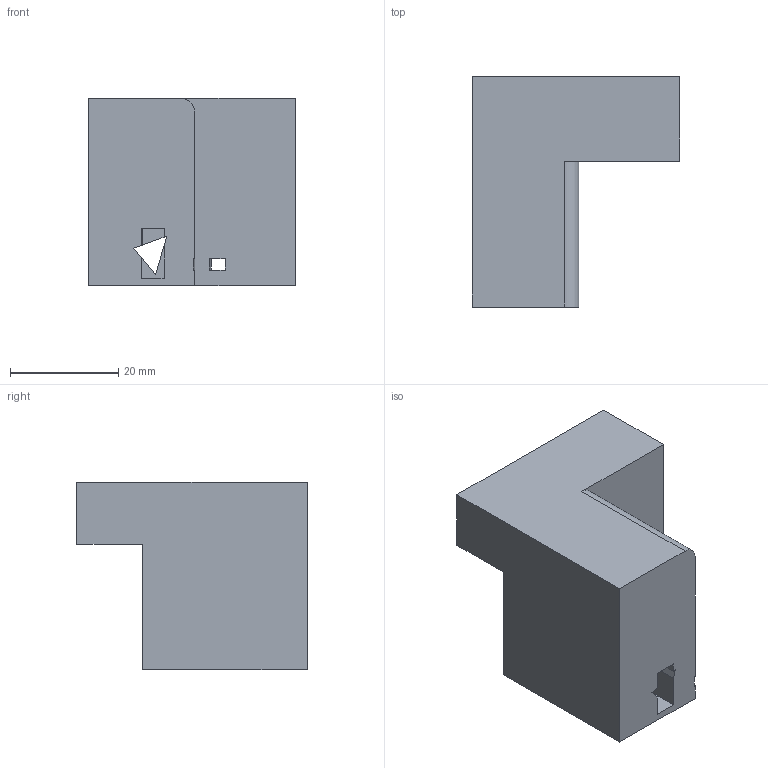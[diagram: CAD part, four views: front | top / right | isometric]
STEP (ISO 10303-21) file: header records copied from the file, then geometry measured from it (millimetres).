
FILE_DESCRIPTION(('Open CASCADE Model'),'2;1');
FILE_NAME('Open CASCADE Shape Model','2021-05-12T15:01:52',('Author'),( 'Open CASCADE'),'Open CASCADE STEP processor 7.4','Open CASCADE 7.4' ,'Unknown');
FILE_SCHEMA(('AUTOMOTIVE_DESIGN { 1 0 10303 214 1 1 1 1 }'));
Length unit declared in the file: millimetre
Products named in the file (1): Open CASCADE STEP translator 7.4 17
Bounding box: 38.26 x 42.48 x 34.61 mm (x, y, z)
Volume: 24768.6 mm3; surface area: 8016.8 mm2
Topology: 1 solids, 1 shells, 34 faces, 99 edges, 67 vertices
Faces by surface type: plane 31, cylinder 3
Entity records: 2398 total; most frequent: CARTESIAN_POINT 472, DIRECTION 329, LINE 246, VECTOR 246, ORIENTED_EDGE 198, PCURVE 198, DEFINITIONAL_REPRESENTATION 198, EDGE_CURVE 99
